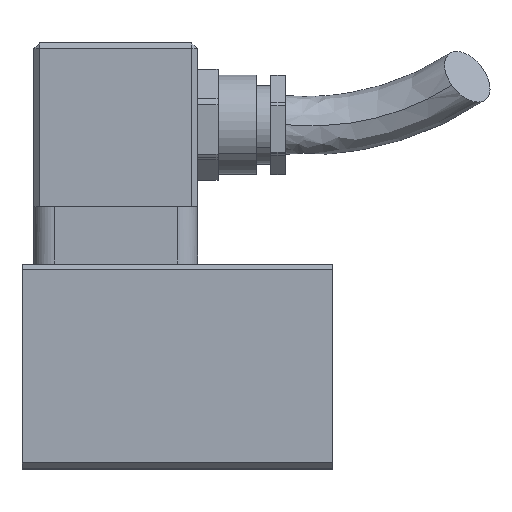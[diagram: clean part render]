
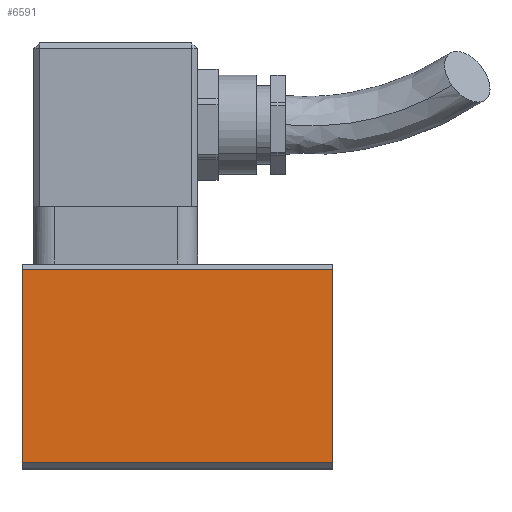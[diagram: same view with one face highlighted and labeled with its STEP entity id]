
A CAD part, top view. The second image highlights one B-rep face of the part: STEP entity #6591.
In plain terms, the highlighted planar face has unit normal (0, 0, 1).
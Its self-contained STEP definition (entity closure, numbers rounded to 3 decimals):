
#43 = EDGE_CURVE ( 'NONE', #9306, #6843, #7983, .T. ) ;
#300 = CARTESIAN_POINT ( 'NONE',  ( 53., -16.5, 17.5 ) ) ;
#391 = VECTOR ( 'NONE', #8411, 1000. ) ;
#443 = DIRECTION ( 'NONE',  ( 0., -1., 0. ) ) ;
#517 = LINE ( 'NONE', #7033, #9387 ) ;
#859 = VECTOR ( 'NONE', #1855, 1000. ) ;
#1231 = CARTESIAN_POINT ( 'NONE',  ( 53., 16.5, 17.5 ) ) ;
#1661 = AXIS2_PLACEMENT_3D ( 'NONE', #2097, #7268, #2823 ) ;
#1817 = CARTESIAN_POINT ( 'NONE',  ( 53., -16.5, 17.5 ) ) ;
#1855 = DIRECTION ( 'NONE',  ( -1., 0., 0. ) ) ;
#2097 = CARTESIAN_POINT ( 'NONE',  ( 53., -17.5, 17.5 ) ) ;
#2139 = VERTEX_POINT ( 'NONE', #9204 ) ;
#2823 = DIRECTION ( 'NONE',  ( -1., 0., 0. ) ) ;
#3972 = CARTESIAN_POINT ( 'NONE',  ( 53., 16.5, 17.5 ) ) ;
#4062 = FACE_OUTER_BOUND ( 'NONE', #7285, .T. ) ;
#4195 = CARTESIAN_POINT ( 'NONE',  ( 53., -17.5, 17.5 ) ) ;
#4524 = VERTEX_POINT ( 'NONE', #8323 ) ;
#4890 = VECTOR ( 'NONE', #7042, 1000. ) ;
#6340 = ORIENTED_EDGE ( 'NONE', *, *, #6391, .T. ) ;
#6391 = EDGE_CURVE ( 'NONE', #2139, #6843, #8829, .T. ) ;
#6591 = ADVANCED_FACE ( 'NONE', ( #4062 ), #7939, .F. ) ;
#6753 = LINE ( 'NONE', #1231, #859 ) ;
#6843 = VERTEX_POINT ( 'NONE', #300 ) ;
#6960 = EDGE_CURVE ( 'NONE', #4524, #2139, #517, .T. ) ;
#7010 = EDGE_CURVE ( 'NONE', #9306, #4524, #6753, .T. ) ;
#7033 = CARTESIAN_POINT ( 'NONE',  ( 0., -17.5, 17.5 ) ) ;
#7042 = DIRECTION ( 'NONE',  ( 1., 0., 0. ) ) ;
#7268 = DIRECTION ( 'NONE',  ( 0., 0., -1. ) ) ;
#7285 = EDGE_LOOP ( 'NONE', ( #8872, #6340, #8855, #7357 ) ) ;
#7357 = ORIENTED_EDGE ( 'NONE', *, *, #7010, .T. ) ;
#7939 = PLANE ( 'NONE',  #1661 ) ;
#7983 = LINE ( 'NONE', #4195, #391 ) ;
#8323 = CARTESIAN_POINT ( 'NONE',  ( 0., 16.5, 17.5 ) ) ;
#8411 = DIRECTION ( 'NONE',  ( 0., -1., 0. ) ) ;
#8829 = LINE ( 'NONE', #1817, #4890 ) ;
#8855 = ORIENTED_EDGE ( 'NONE', *, *, #43, .F. ) ;
#8872 = ORIENTED_EDGE ( 'NONE', *, *, #6960, .T. ) ;
#9204 = CARTESIAN_POINT ( 'NONE',  ( 0., -16.5, 17.5 ) ) ;
#9306 = VERTEX_POINT ( 'NONE', #3972 ) ;
#9387 = VECTOR ( 'NONE', #443, 1000. ) ;
